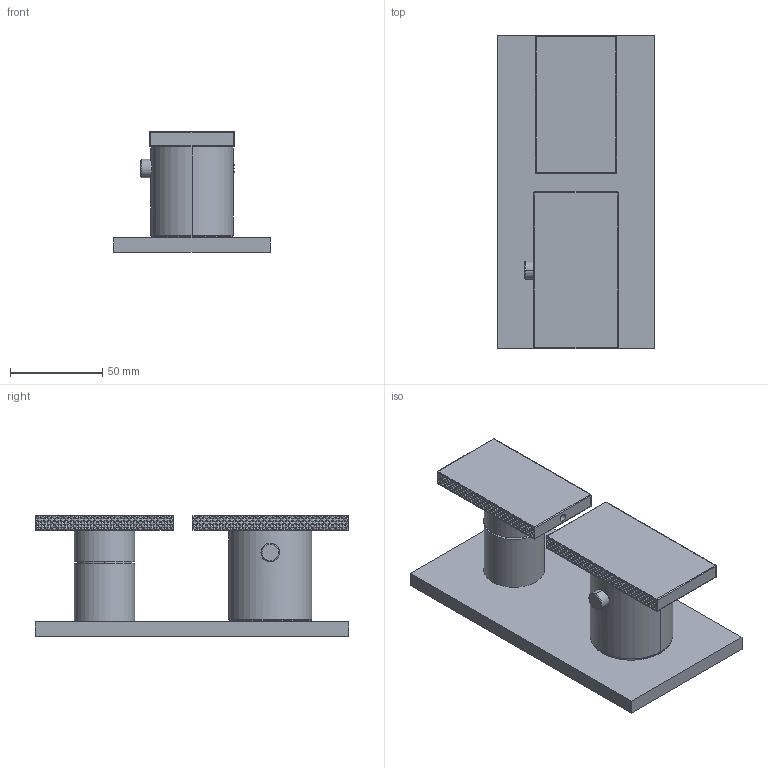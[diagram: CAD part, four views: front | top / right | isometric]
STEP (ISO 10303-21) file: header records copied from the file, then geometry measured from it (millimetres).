
FILE_DESCRIPTION(('STEP AP214'),'2;1');
FILE_NAME('DIS_3D_P723B+M523A.stp','2024-04-30T09:01:53',(''),(''),'2015.2.119','THINKDESIGN','');
FILE_SCHEMA(('AUTOMOTIVE_DESIGN'));
Length unit declared in the file: millimetre
Products named in the file (1): top
Bounding box: 85 x 170 x 65.7 mm (x, y, z)
Volume: 293166.3 mm3; surface area: 74606.1 mm2
Topology: 11 solids, 11 shells, 3698 faces, 7441 edges, 3778 vertices
Faces by surface type: plane 3075, cylinder 524, bspline 99
Full cylindrical faces by diameter (mm): 30.922 x1, 33 x1
Entity records: 164482 total; most frequent: CARTESIAN_POINT 25572, ORIENTED_EDGE 14874, DIRECTION 13930, EDGE_CURVE 7437, STYLED_ITEM 7407, PRESENTATION_STYLE_ASSIGNMENT 7399, SURFACE_STYLE_USAGE 7399, SURFACE_SIDE_STYLE 7399
